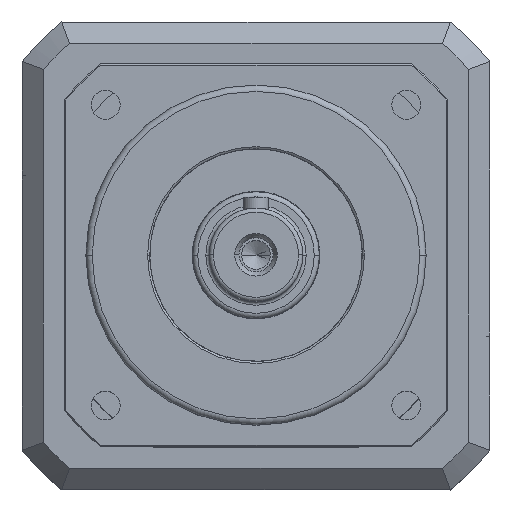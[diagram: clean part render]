
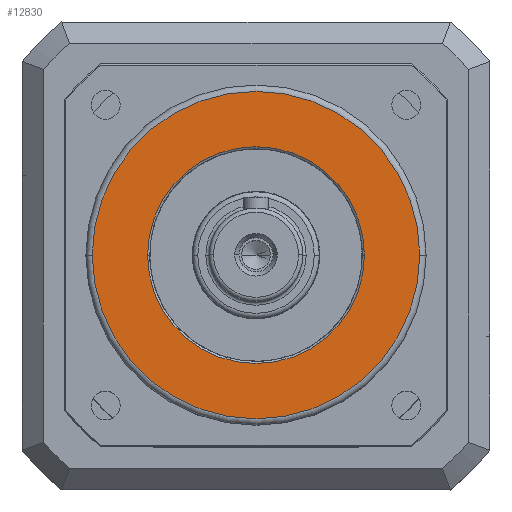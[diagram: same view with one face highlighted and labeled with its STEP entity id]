
A CAD part, top view. The second image highlights one B-rep face of the part: STEP entity #12830.
In plain terms, the highlighted planar face has unit normal (0, 0, 1).
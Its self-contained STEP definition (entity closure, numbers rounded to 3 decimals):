
#4019 = FACE_BOUND ( 'NONE', #11575, .T. ) ;
#4020 = FACE_OUTER_BOUND ( 'NONE', #11574, .T. ) ;
#4348 = CARTESIAN_POINT ( 'NONE',  ( 0., 0., 10. ) ) ;
#4349 = DIRECTION ( 'NONE',  ( 0., 0., 1. ) ) ;
#4350 = DIRECTION ( 'NONE',  ( 1., 0., 0. ) ) ;
#4942 = CIRCLE ( 'NONE', #4949, 38.5 ) ;
#4949 = AXIS2_PLACEMENT_3D ( 'NONE', #4348, #4349, #4350 ) ;
#5045 = AXIS2_PLACEMENT_3D ( 'NONE', #12074, #12075, #12076 ) ;
#7817 = CIRCLE ( 'NONE', #7849, 38.5 ) ;
#7842 = CIRCLE ( 'NONE', #7847, 25.5 ) ;
#7847 = AXIS2_PLACEMENT_3D ( 'NONE', #9036, #9037, #9038 ) ;
#7849 = AXIS2_PLACEMENT_3D ( 'NONE', #9039, #9040, #9041 ) ;
#9036 = CARTESIAN_POINT ( 'NONE',  ( 0., 0., 10. ) ) ;
#9037 = DIRECTION ( 'NONE',  ( 0., 0., -1. ) ) ;
#9038 = DIRECTION ( 'NONE',  ( 1., 0., 0. ) ) ;
#9039 = CARTESIAN_POINT ( 'NONE',  ( 0., 0., 10. ) ) ;
#9040 = DIRECTION ( 'NONE',  ( 0., 0., 1. ) ) ;
#9041 = DIRECTION ( 'NONE',  ( 1., 0., 0. ) ) ;
#11453 = EDGE_CURVE ( 'NONE', #15971, #15970, #4942, .T. ) ;
#11574 = EDGE_LOOP ( 'NONE', ( #19619, #19618 ) ) ;
#11575 = EDGE_LOOP ( 'NONE', ( #19615, #19617 ) ) ;
#12073 = PLANE ( 'NONE',  #5045 ) ;
#12074 = CARTESIAN_POINT ( 'NONE',  ( 0., 0., 10. ) ) ;
#12075 = DIRECTION ( 'NONE',  ( 0., 0., 1. ) ) ;
#12076 = DIRECTION ( 'NONE',  ( 1., 0., 0. ) ) ;
#12830 = ADVANCED_FACE ( 'NONE', ( #4019, #4020 ), #12073, .T. ) ;
#14810 = CIRCLE ( 'NONE', #14817, 25.5 ) ;
#14817 = AXIS2_PLACEMENT_3D ( 'NONE', #15297, #15298, #15299 ) ;
#15297 = CARTESIAN_POINT ( 'NONE',  ( 0., 0., 10. ) ) ;
#15298 = DIRECTION ( 'NONE',  ( 0., 0., -1. ) ) ;
#15299 = DIRECTION ( 'NONE',  ( 1., 0., 0. ) ) ;
#15359 = EDGE_CURVE ( 'NONE', #15967, #15966, #14810, .T. ) ;
#15966 = VERTEX_POINT ( 'NONE', #16924 ) ;
#15967 = VERTEX_POINT ( 'NONE', #16925 ) ;
#15970 = VERTEX_POINT ( 'NONE', #16928 ) ;
#15971 = VERTEX_POINT ( 'NONE', #16929 ) ;
#16924 = CARTESIAN_POINT ( 'NONE',  ( -25.5, 0., 10. ) ) ;
#16925 = CARTESIAN_POINT ( 'NONE',  ( 25.5, 0., 10. ) ) ;
#16928 = CARTESIAN_POINT ( 'NONE',  ( -38.5, 0., 10. ) ) ;
#16929 = CARTESIAN_POINT ( 'NONE',  ( 38.5, 0., 10. ) ) ;
#19615 = ORIENTED_EDGE ( 'NONE', *, *, #15359, .T. ) ;
#19617 = ORIENTED_EDGE ( 'NONE', *, *, #19940, .T. ) ;
#19618 = ORIENTED_EDGE ( 'NONE', *, *, #19941, .T. ) ;
#19619 = ORIENTED_EDGE ( 'NONE', *, *, #11453, .T. ) ;
#19940 = EDGE_CURVE ( 'NONE', #15966, #15967, #7842, .T. ) ;
#19941 = EDGE_CURVE ( 'NONE', #15970, #15971, #7817, .T. ) ;
